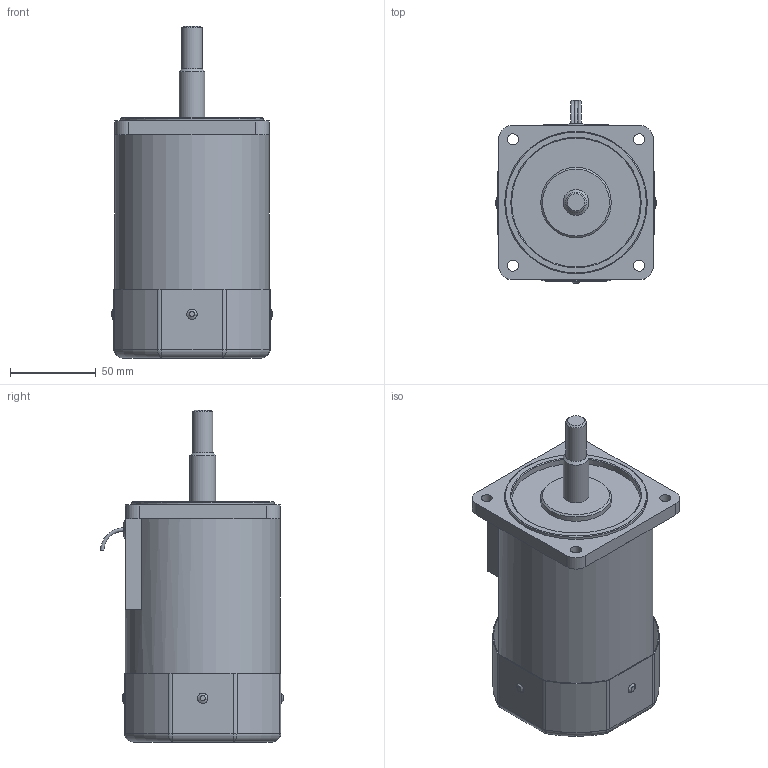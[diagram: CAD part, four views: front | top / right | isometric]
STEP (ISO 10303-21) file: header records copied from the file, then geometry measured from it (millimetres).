
FILE_DESCRIPTION (( 'STEP AP203' ), '1' );
FILE_NAME ('9IDG¤±-90FHC.STEP', '2020-06-19T08:03:41', ( '' ), ( '' ), 'SwSTEP 2.0', 'SolidWorks 2012', '' );
FILE_SCHEMA (( 'CONFIG_CONTROL_DESIGN' ));
Length unit declared in the file: millimetre
Products named in the file (3): 9IDG､ｱ-90FHC; FC-F_ル遽; 9IDG､ｱ-90HC_ﾇ･ﾁﾘ
Assembly tree (2 placements, depth 2):
  9IDG､ｱ-90FHC
    9IDG､ｱ-90HC_ﾇ･ﾁﾘ
    FC-F_ル遽
Bounding box: 94 x 106.5 x 193.3 mm (x, y, z)
Volume: 784323.1 mm3; surface area: 91600.1 mm2
Topology: 2 solids, 2 shells, 254 faces, 626 edges, 396 vertices
Faces by surface type: cylinder 138, plane 77, sphere 16, torus 12, cone 7, bspline 4
Full cylindrical faces by diameter (mm): 2 x3, 3 x12, 6.1 x1, 6.5 x4, 8 x1, 11.95 x1, 15 x1, 38 x1, 41 x1, 67 x1, 75 x1, 83 x1, 86.5 x1, 90 x1
Entity records: 7773 total; most frequent: CARTESIAN_POINT 1472, DIRECTION 1378, ORIENTED_EDGE 1108, AXIS2_PLACEMENT_3D 574, EDGE_CURVE 554, VERTEX_POINT 378, EDGE_LOOP 362, CIRCLE 319
